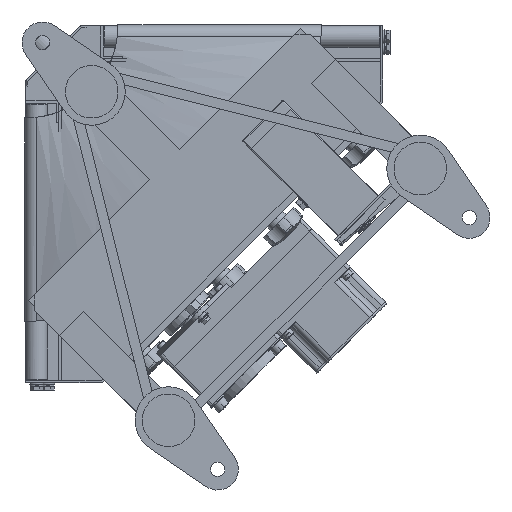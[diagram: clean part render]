
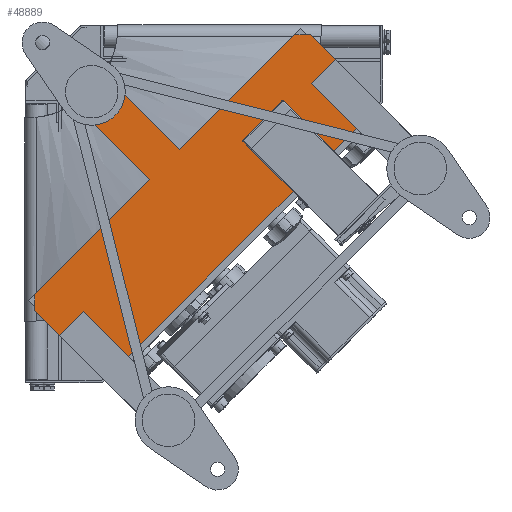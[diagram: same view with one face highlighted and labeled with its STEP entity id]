
A CAD part, front view. The second image highlights one B-rep face of the part: STEP entity #48889.
In plain terms, the highlighted planar face has unit normal (0, -1, 0).
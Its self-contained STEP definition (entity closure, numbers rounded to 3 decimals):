
#37 = ORIENTED_EDGE ( 'NONE', *, *, #35821, .F. ) ;
#2261 = CARTESIAN_POINT ( 'NONE',  ( 8.132, -167.5, -245.012 ) ) ;
#2797 = CARTESIAN_POINT ( 'NONE',  ( 8.132, -167.5, -259.155 ) ) ;
#4068 = VECTOR ( 'NONE', #20915, 1000. ) ;
#4220 = EDGE_CURVE ( 'NONE', #8931, #50192, #24799, .T. ) ;
#5040 = EDGE_CURVE ( 'NONE', #9477, #16404, #31316, .T. ) ;
#5542 = PLANE ( 'NONE',  #41367 ) ;
#5637 = CARTESIAN_POINT ( 'NONE',  ( 259.155, -167.5, -8.132 ) ) ;
#5848 = VERTEX_POINT ( 'NONE', #35536 ) ;
#6498 = CARTESIAN_POINT ( 'NONE',  ( 259.155, -167.5, -8.132 ) ) ;
#6606 = LINE ( 'NONE', #15432, #52425 ) ;
#6865 = EDGE_CURVE ( 'NONE', #43701, #11627, #6606, .T. ) ;
#8157 = CARTESIAN_POINT ( 'NONE',  ( 8.132, -167.5, -259.155 ) ) ;
#8931 = VERTEX_POINT ( 'NONE', #16240 ) ;
#9399 = LINE ( 'NONE', #24283, #37851 ) ;
#9410 = DIRECTION ( 'NONE',  ( 0.707, 0., 0.707 ) ) ;
#9477 = VERTEX_POINT ( 'NONE', #25937 ) ;
#9625 = CARTESIAN_POINT ( 'NONE',  ( 0., -167.5, 0. ) ) ;
#10631 = DIRECTION ( 'NONE',  ( 0.707, 0., 0.707 ) ) ;
#10719 = LINE ( 'NONE', #33617, #35794 ) ;
#11627 = VERTEX_POINT ( 'NONE', #27524 ) ;
#11763 = ORIENTED_EDGE ( 'NONE', *, *, #28120, .F. ) ;
#13084 = ORIENTED_EDGE ( 'NONE', *, *, #57168, .F. ) ;
#15117 = VECTOR ( 'NONE', #9410, 1000. ) ;
#15190 = VERTEX_POINT ( 'NONE', #8157 ) ;
#15432 = CARTESIAN_POINT ( 'NONE',  ( 8.132, -167.5, -245.012 ) ) ;
#15807 = DIRECTION ( 'NONE',  ( 0., 0., -1. ) ) ;
#15862 = LINE ( 'NONE', #2797, #4068 ) ;
#16240 = CARTESIAN_POINT ( 'NONE',  ( 322.794, -167.5, -71.771 ) ) ;
#16404 = VERTEX_POINT ( 'NONE', #2261 ) ;
#18614 = DIRECTION ( 'NONE',  ( 0., -1., 0. ) ) ;
#18978 = DIRECTION ( 'NONE',  ( 0., 0., -1. ) ) ;
#19349 = LINE ( 'NONE', #40910, #15117 ) ;
#19439 = LINE ( 'NONE', #21892, #24253 ) ;
#20915 = DIRECTION ( 'NONE',  ( 0.707, 0., -0.707 ) ) ;
#21892 = CARTESIAN_POINT ( 'NONE',  ( 12.728, -167.5, -39.598 ) ) ;
#24140 = ORIENTED_EDGE ( 'NONE', *, *, #5040, .T. ) ;
#24253 = VECTOR ( 'NONE', #26157, 1000. ) ;
#24283 = CARTESIAN_POINT ( 'NONE',  ( 71.771, -167.5, -322.794 ) ) ;
#24799 = LINE ( 'NONE', #6498, #44927 ) ;
#25937 = CARTESIAN_POINT ( 'NONE',  ( 113.137, -167.5, -140.007 ) ) ;
#26157 = DIRECTION ( 'NONE',  ( -0.707, 0., 0.707 ) ) ;
#26289 = EDGE_CURVE ( 'NONE', #34527, #8931, #9399, .T. ) ;
#26898 = ORIENTED_EDGE ( 'NONE', *, *, #49875, .T. ) ;
#27524 = CARTESIAN_POINT ( 'NONE',  ( 140.007, -167.5, -113.137 ) ) ;
#27967 = VECTOR ( 'NONE', #15807, 1000. ) ;
#27969 = CARTESIAN_POINT ( 'NONE',  ( 71.771, -167.5, -322.794 ) ) ;
#28085 = CARTESIAN_POINT ( 'NONE',  ( 8.132, -167.5, -259.155 ) ) ;
#28120 = EDGE_CURVE ( 'NONE', #9477, #5848, #19439, .T. ) ;
#28335 = DIRECTION ( 'NONE',  ( 0.707, 0., -0.707 ) ) ;
#28480 = DIRECTION ( 'NONE',  ( -0.707, 0., -0.707 ) ) ;
#28581 = FACE_OUTER_BOUND ( 'NONE', #55378, .T. ) ;
#29042 = ORIENTED_EDGE ( 'NONE', *, *, #40062, .T. ) ;
#29953 = VECTOR ( 'NONE', #28480, 1000. ) ;
#31316 = LINE ( 'NONE', #50478, #29953 ) ;
#33118 = CARTESIAN_POINT ( 'NONE',  ( 39.598, -167.5, -12.728 ) ) ;
#33617 = CARTESIAN_POINT ( 'NONE',  ( 245.012, -167.5, -8.132 ) ) ;
#34493 = ORIENTED_EDGE ( 'NONE', *, *, #26289, .T. ) ;
#34527 = VERTEX_POINT ( 'NONE', #27969 ) ;
#35536 = CARTESIAN_POINT ( 'NONE',  ( 12.728, -167.5, -39.598 ) ) ;
#35794 = VECTOR ( 'NONE', #47149, 1000. ) ;
#35821 = EDGE_CURVE ( 'NONE', #52507, #11627, #40619, .T. ) ;
#37141 = VECTOR ( 'NONE', #28335, 1000. ) ;
#37851 = VECTOR ( 'NONE', #10631, 1000. ) ;
#38867 = ORIENTED_EDGE ( 'NONE', *, *, #6865, .T. ) ;
#40062 = EDGE_CURVE ( 'NONE', #50192, #43701, #10719, .T. ) ;
#40619 = LINE ( 'NONE', #33118, #37141 ) ;
#40910 = CARTESIAN_POINT ( 'NONE',  ( 12.728, -167.5, -39.598 ) ) ;
#41367 = AXIS2_PLACEMENT_3D ( 'NONE', #9625, #18614, #18978 ) ;
#43354 = CARTESIAN_POINT ( 'NONE',  ( 39.598, -167.5, -12.728 ) ) ;
#43701 = VERTEX_POINT ( 'NONE', #52162 ) ;
#44927 = VECTOR ( 'NONE', #55734, 1000. ) ;
#47149 = DIRECTION ( 'NONE',  ( -1., 0., 0. ) ) ;
#48575 = DIRECTION ( 'NONE',  ( -0.707, 0., -0.707 ) ) ;
#48889 = ADVANCED_FACE ( 'NONE', ( #28581 ), #5542, .T. ) ;
#49875 = EDGE_CURVE ( 'NONE', #16404, #15190, #52151, .T. ) ;
#50192 = VERTEX_POINT ( 'NONE', #5637 ) ;
#50478 = CARTESIAN_POINT ( 'NONE',  ( 8.132, -167.5, -245.012 ) ) ;
#50859 = ORIENTED_EDGE ( 'NONE', *, *, #57501, .T. ) ;
#52151 = LINE ( 'NONE', #28085, #27967 ) ;
#52162 = CARTESIAN_POINT ( 'NONE',  ( 245.012, -167.5, -8.132 ) ) ;
#52425 = VECTOR ( 'NONE', #48575, 1000. ) ;
#52507 = VERTEX_POINT ( 'NONE', #43354 ) ;
#55378 = EDGE_LOOP ( 'NONE', ( #11763, #24140, #26898, #50859, #34493, #57306, #29042, #38867, #37, #13084 ) ) ;
#55734 = DIRECTION ( 'NONE',  ( -0.707, 0., 0.707 ) ) ;
#57168 = EDGE_CURVE ( 'NONE', #5848, #52507, #19349, .T. ) ;
#57306 = ORIENTED_EDGE ( 'NONE', *, *, #4220, .T. ) ;
#57501 = EDGE_CURVE ( 'NONE', #15190, #34527, #15862, .T. ) ;
